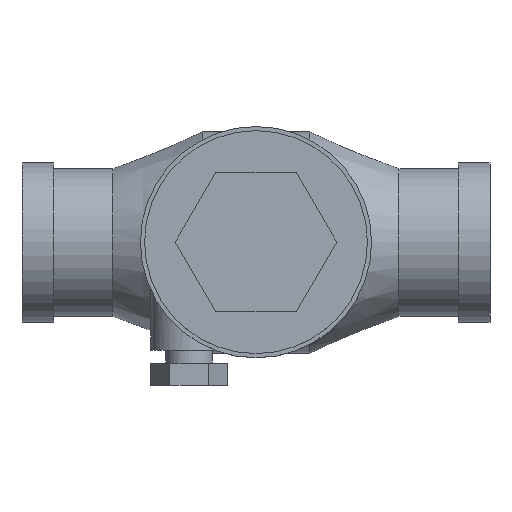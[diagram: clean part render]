
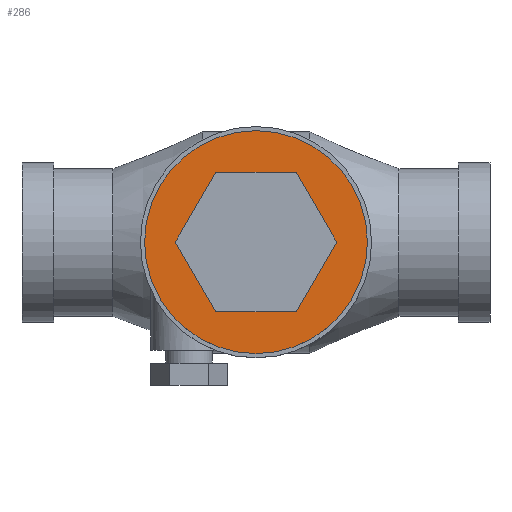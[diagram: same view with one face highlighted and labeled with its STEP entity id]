
A CAD part, top view. The second image highlights one B-rep face of the part: STEP entity #286.
In plain terms, the highlighted planar face has unit normal (0, 0, 1).
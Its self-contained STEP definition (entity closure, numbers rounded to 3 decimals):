
#286 = ADVANCED_FACE('',(#287,#327),#300,.T.);
#287 = FACE_BOUND('',#288,.T.);
#288 = EDGE_LOOP('',(#289));
#289 = ORIENTED_EDGE('',*,*,#290,.F.);
#290 = EDGE_CURVE('',#291,#291,#293,.T.);
#291 = VERTEX_POINT('',#292);
#292 = CARTESIAN_POINT('',(1.86,0.,1.28));
#293 = SURFACE_CURVE('',#294,(#299,#315),.PCURVE_S1.);
#294 = CIRCLE('',#295,0.6);
#295 = AXIS2_PLACEMENT_3D('',#296,#297,#298);
#296 = CARTESIAN_POINT('',(1.26,0.,1.28));
#297 = DIRECTION('',(0.,0.,-1.));
#298 = DIRECTION('',(1.,0.,0.));
#299 = PCURVE('',#300,#305);
#300 = PLANE('',#301);
#301 = AXIS2_PLACEMENT_3D('',#302,#303,#304);
#302 = CARTESIAN_POINT('',(1.26,0.,1.28));
#303 = DIRECTION('',(0.,0.,1.));
#304 = DIRECTION('',(1.,0.,-0.));
#305 = DEFINITIONAL_REPRESENTATION('',(#306),#314);
#306 = ( BOUNDED_CURVE() B_SPLINE_CURVE(2,(#307,#308,#309,#310,#311,#312
,#313),.UNSPECIFIED.,.T.,.F.) B_SPLINE_CURVE_WITH_KNOTS((1,2,2,2,2,1),(
    -2.094,0.,2.094,4.189,6.283,
8.378),.UNSPECIFIED.) CURVE() GEOMETRIC_REPRESENTATION_ITEM() 
RATIONAL_B_SPLINE_CURVE((1.,0.5,1.,0.5,1.,0.5,1.)) REPRESENTATION_ITEM(
  '') );
#307 = CARTESIAN_POINT('',(0.6,0.));
#308 = CARTESIAN_POINT('',(0.6,-1.039));
#309 = CARTESIAN_POINT('',(-0.3,-0.52));
#310 = CARTESIAN_POINT('',(-1.2,0.));
#311 = CARTESIAN_POINT('',(-0.3,0.52));
#312 = CARTESIAN_POINT('',(0.6,1.039));
#313 = CARTESIAN_POINT('',(0.6,0.));
#314 = ( GEOMETRIC_REPRESENTATION_CONTEXT(2) 
PARAMETRIC_REPRESENTATION_CONTEXT() REPRESENTATION_CONTEXT('2D SPACE',''
  ) );
#315 = PCURVE('',#316,#321);
#316 = CYLINDRICAL_SURFACE('',#317,0.6);
#317 = AXIS2_PLACEMENT_3D('',#318,#319,#320);
#318 = CARTESIAN_POINT('',(1.26,0.,1.18));
#319 = DIRECTION('',(0.,0.,1.));
#320 = DIRECTION('',(1.,0.,-0.));
#321 = DEFINITIONAL_REPRESENTATION('',(#322),#326);
#322 = LINE('',#323,#324);
#323 = CARTESIAN_POINT('',(6.283,0.1));
#324 = VECTOR('',#325,1.);
#325 = DIRECTION('',(-1.,0.));
#326 = ( GEOMETRIC_REPRESENTATION_CONTEXT(2) 
PARAMETRIC_REPRESENTATION_CONTEXT() REPRESENTATION_CONTEXT('2D SPACE',''
  ) );
#327 = FACE_BOUND('',#328,.T.);
#328 = EDGE_LOOP('',(#329,#359,#387,#415,#443,#471));
#329 = ORIENTED_EDGE('',*,*,#330,.F.);
#330 = EDGE_CURVE('',#331,#333,#335,.T.);
#331 = VERTEX_POINT('',#332);
#332 = CARTESIAN_POINT('',(1.043,-0.376,1.28));
#333 = VERTEX_POINT('',#334);
#334 = CARTESIAN_POINT('',(1.477,-0.376,1.28));
#335 = SURFACE_CURVE('',#336,(#340,#347),.PCURVE_S1.);
#336 = LINE('',#337,#338);
#337 = CARTESIAN_POINT('',(1.043,-0.376,1.28));
#338 = VECTOR('',#339,1.);
#339 = DIRECTION('',(1.,0.,0.));
#340 = PCURVE('',#300,#341);
#341 = DEFINITIONAL_REPRESENTATION('',(#342),#346);
#342 = LINE('',#343,#344);
#343 = CARTESIAN_POINT('',(-0.217,-0.376));
#344 = VECTOR('',#345,1.);
#345 = DIRECTION('',(1.,0.));
#346 = ( GEOMETRIC_REPRESENTATION_CONTEXT(2) 
PARAMETRIC_REPRESENTATION_CONTEXT() REPRESENTATION_CONTEXT('2D SPACE',''
  ) );
#347 = PCURVE('',#348,#353);
#348 = PLANE('',#349);
#349 = AXIS2_PLACEMENT_3D('',#350,#351,#352);
#350 = CARTESIAN_POINT('',(1.26,-0.376,1.28));
#351 = DIRECTION('',(0.,-1.,0.));
#352 = DIRECTION('',(1.,0.,0.));
#353 = DEFINITIONAL_REPRESENTATION('',(#354),#358);
#354 = LINE('',#355,#356);
#355 = CARTESIAN_POINT('',(-0.217,0.));
#356 = VECTOR('',#357,1.);
#357 = DIRECTION('',(1.,0.));
#358 = ( GEOMETRIC_REPRESENTATION_CONTEXT(2) 
PARAMETRIC_REPRESENTATION_CONTEXT() REPRESENTATION_CONTEXT('2D SPACE',''
  ) );
#359 = ORIENTED_EDGE('',*,*,#360,.F.);
#360 = EDGE_CURVE('',#361,#331,#363,.T.);
#361 = VERTEX_POINT('',#362);
#362 = CARTESIAN_POINT('',(0.826,0.,1.28));
#363 = SURFACE_CURVE('',#364,(#368,#375),.PCURVE_S1.);
#364 = LINE('',#365,#366);
#365 = CARTESIAN_POINT('',(0.826,0.,1.28));
#366 = VECTOR('',#367,1.);
#367 = DIRECTION('',(0.5,-0.866,0.));
#368 = PCURVE('',#300,#369);
#369 = DEFINITIONAL_REPRESENTATION('',(#370),#374);
#370 = LINE('',#371,#372);
#371 = CARTESIAN_POINT('',(-0.434,0.));
#372 = VECTOR('',#373,1.);
#373 = DIRECTION('',(0.5,-0.866));
#374 = ( GEOMETRIC_REPRESENTATION_CONTEXT(2) 
PARAMETRIC_REPRESENTATION_CONTEXT() REPRESENTATION_CONTEXT('2D SPACE',''
  ) );
#375 = PCURVE('',#376,#381);
#376 = PLANE('',#377);
#377 = AXIS2_PLACEMENT_3D('',#378,#379,#380);
#378 = CARTESIAN_POINT('',(0.934,-0.188,1.28));
#379 = DIRECTION('',(-0.866,-0.5,0.));
#380 = DIRECTION('',(0.5,-0.866,0.));
#381 = DEFINITIONAL_REPRESENTATION('',(#382),#386);
#382 = LINE('',#383,#384);
#383 = CARTESIAN_POINT('',(-0.217,0.));
#384 = VECTOR('',#385,1.);
#385 = DIRECTION('',(1.,0.));
#386 = ( GEOMETRIC_REPRESENTATION_CONTEXT(2) 
PARAMETRIC_REPRESENTATION_CONTEXT() REPRESENTATION_CONTEXT('2D SPACE',''
  ) );
#387 = ORIENTED_EDGE('',*,*,#388,.F.);
#388 = EDGE_CURVE('',#389,#361,#391,.T.);
#389 = VERTEX_POINT('',#390);
#390 = CARTESIAN_POINT('',(1.043,0.376,1.28));
#391 = SURFACE_CURVE('',#392,(#396,#403),.PCURVE_S1.);
#392 = LINE('',#393,#394);
#393 = CARTESIAN_POINT('',(1.043,0.376,1.28));
#394 = VECTOR('',#395,1.);
#395 = DIRECTION('',(-0.5,-0.866,0.));
#396 = PCURVE('',#300,#397);
#397 = DEFINITIONAL_REPRESENTATION('',(#398),#402);
#398 = LINE('',#399,#400);
#399 = CARTESIAN_POINT('',(-0.217,0.376));
#400 = VECTOR('',#401,1.);
#401 = DIRECTION('',(-0.5,-0.866));
#402 = ( GEOMETRIC_REPRESENTATION_CONTEXT(2) 
PARAMETRIC_REPRESENTATION_CONTEXT() REPRESENTATION_CONTEXT('2D SPACE',''
  ) );
#403 = PCURVE('',#404,#409);
#404 = PLANE('',#405);
#405 = AXIS2_PLACEMENT_3D('',#406,#407,#408);
#406 = CARTESIAN_POINT('',(0.934,0.188,1.28));
#407 = DIRECTION('',(-0.866,0.5,0.));
#408 = DIRECTION('',(-0.5,-0.866,0.));
#409 = DEFINITIONAL_REPRESENTATION('',(#410),#414);
#410 = LINE('',#411,#412);
#411 = CARTESIAN_POINT('',(-0.217,0.));
#412 = VECTOR('',#413,1.);
#413 = DIRECTION('',(1.,0.));
#414 = ( GEOMETRIC_REPRESENTATION_CONTEXT(2) 
PARAMETRIC_REPRESENTATION_CONTEXT() REPRESENTATION_CONTEXT('2D SPACE',''
  ) );
#415 = ORIENTED_EDGE('',*,*,#416,.F.);
#416 = EDGE_CURVE('',#417,#389,#419,.T.);
#417 = VERTEX_POINT('',#418);
#418 = CARTESIAN_POINT('',(1.477,0.376,1.28));
#419 = SURFACE_CURVE('',#420,(#424,#431),.PCURVE_S1.);
#420 = LINE('',#421,#422);
#421 = CARTESIAN_POINT('',(1.477,0.376,1.28));
#422 = VECTOR('',#423,1.);
#423 = DIRECTION('',(-1.,0.,0.));
#424 = PCURVE('',#300,#425);
#425 = DEFINITIONAL_REPRESENTATION('',(#426),#430);
#426 = LINE('',#427,#428);
#427 = CARTESIAN_POINT('',(0.217,0.376));
#428 = VECTOR('',#429,1.);
#429 = DIRECTION('',(-1.,0.));
#430 = ( GEOMETRIC_REPRESENTATION_CONTEXT(2) 
PARAMETRIC_REPRESENTATION_CONTEXT() REPRESENTATION_CONTEXT('2D SPACE',''
  ) );
#431 = PCURVE('',#432,#437);
#432 = PLANE('',#433);
#433 = AXIS2_PLACEMENT_3D('',#434,#435,#436);
#434 = CARTESIAN_POINT('',(1.26,0.376,1.28));
#435 = DIRECTION('',(0.,1.,0.));
#436 = DIRECTION('',(-1.,0.,0.));
#437 = DEFINITIONAL_REPRESENTATION('',(#438),#442);
#438 = LINE('',#439,#440);
#439 = CARTESIAN_POINT('',(-0.217,0.));
#440 = VECTOR('',#441,1.);
#441 = DIRECTION('',(1.,0.));
#442 = ( GEOMETRIC_REPRESENTATION_CONTEXT(2) 
PARAMETRIC_REPRESENTATION_CONTEXT() REPRESENTATION_CONTEXT('2D SPACE',''
  ) );
#443 = ORIENTED_EDGE('',*,*,#444,.F.);
#444 = EDGE_CURVE('',#445,#417,#447,.T.);
#445 = VERTEX_POINT('',#446);
#446 = CARTESIAN_POINT('',(1.694,0.,1.28));
#447 = SURFACE_CURVE('',#448,(#452,#459),.PCURVE_S1.);
#448 = LINE('',#449,#450);
#449 = CARTESIAN_POINT('',(1.694,0.,1.28));
#450 = VECTOR('',#451,1.);
#451 = DIRECTION('',(-0.5,0.866,0.));
#452 = PCURVE('',#300,#453);
#453 = DEFINITIONAL_REPRESENTATION('',(#454),#458);
#454 = LINE('',#455,#456);
#455 = CARTESIAN_POINT('',(0.434,0.));
#456 = VECTOR('',#457,1.);
#457 = DIRECTION('',(-0.5,0.866));
#458 = ( GEOMETRIC_REPRESENTATION_CONTEXT(2) 
PARAMETRIC_REPRESENTATION_CONTEXT() REPRESENTATION_CONTEXT('2D SPACE',''
  ) );
#459 = PCURVE('',#460,#465);
#460 = PLANE('',#461);
#461 = AXIS2_PLACEMENT_3D('',#462,#463,#464);
#462 = CARTESIAN_POINT('',(1.586,0.188,1.28));
#463 = DIRECTION('',(0.866,0.5,0.));
#464 = DIRECTION('',(-0.5,0.866,0.));
#465 = DEFINITIONAL_REPRESENTATION('',(#466),#470);
#466 = LINE('',#467,#468);
#467 = CARTESIAN_POINT('',(-0.217,0.));
#468 = VECTOR('',#469,1.);
#469 = DIRECTION('',(1.,0.));
#470 = ( GEOMETRIC_REPRESENTATION_CONTEXT(2) 
PARAMETRIC_REPRESENTATION_CONTEXT() REPRESENTATION_CONTEXT('2D SPACE',''
  ) );
#471 = ORIENTED_EDGE('',*,*,#472,.F.);
#472 = EDGE_CURVE('',#333,#445,#473,.T.);
#473 = SURFACE_CURVE('',#474,(#478,#485),.PCURVE_S1.);
#474 = LINE('',#475,#476);
#475 = CARTESIAN_POINT('',(1.477,-0.376,1.28));
#476 = VECTOR('',#477,1.);
#477 = DIRECTION('',(0.5,0.866,0.));
#478 = PCURVE('',#300,#479);
#479 = DEFINITIONAL_REPRESENTATION('',(#480),#484);
#480 = LINE('',#481,#482);
#481 = CARTESIAN_POINT('',(0.217,-0.376));
#482 = VECTOR('',#483,1.);
#483 = DIRECTION('',(0.5,0.866));
#484 = ( GEOMETRIC_REPRESENTATION_CONTEXT(2) 
PARAMETRIC_REPRESENTATION_CONTEXT() REPRESENTATION_CONTEXT('2D SPACE',''
  ) );
#485 = PCURVE('',#486,#491);
#486 = PLANE('',#487);
#487 = AXIS2_PLACEMENT_3D('',#488,#489,#490);
#488 = CARTESIAN_POINT('',(1.586,-0.188,1.28));
#489 = DIRECTION('',(0.866,-0.5,0.));
#490 = DIRECTION('',(0.5,0.866,0.));
#491 = DEFINITIONAL_REPRESENTATION('',(#492),#496);
#492 = LINE('',#493,#494);
#493 = CARTESIAN_POINT('',(-0.217,0.));
#494 = VECTOR('',#495,1.);
#495 = DIRECTION('',(1.,0.));
#496 = ( GEOMETRIC_REPRESENTATION_CONTEXT(2) 
PARAMETRIC_REPRESENTATION_CONTEXT() REPRESENTATION_CONTEXT('2D SPACE',''
  ) );
